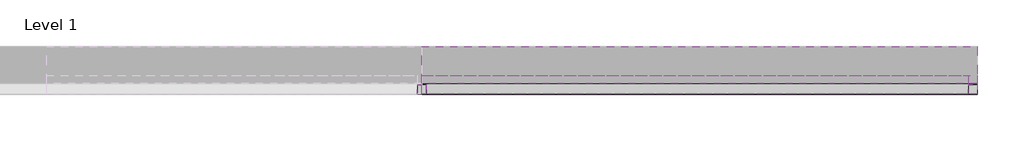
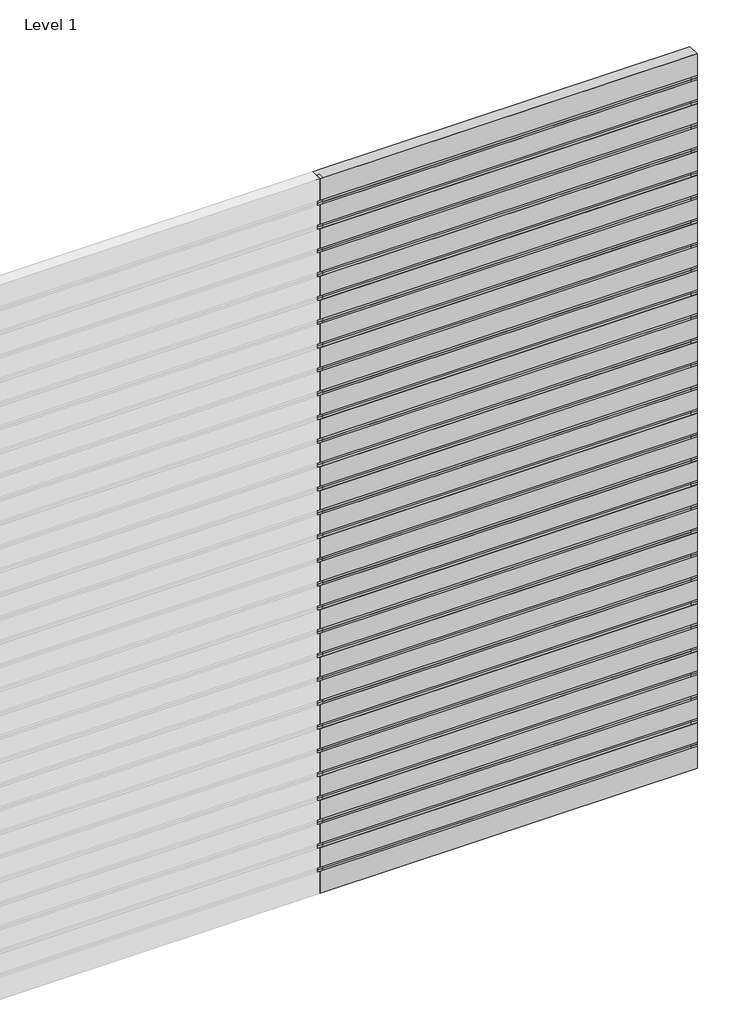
# One storey, part 2 of 2: 74 members, 60 plates.
"""IFC4 building model written with IfcOpenShell, lengths in millimetres."""

from ifc_helpers import new_model, si_unit, origin, place, context, project, spatial, transform, mapped, element, save
from components import rectangular_mullion_20bdfb12, rectangular_mullion_7d91d70c, rectangular_mullion_614df7cf, empty_system_panel_empty_0b604c90, empty_system_panel_empty_68612530, empty_system_panel_empty_34a2d59f

model = new_model("IFC4")

# Units and contexts
model_context = context("Model", 3, world=origin())
ifc_project = project(units=[si_unit("LENGTHUNIT", "METRE", prefix="MILLI")], contexts=[model_context])

# Site, building, storey
site = spatial("IfcSite", under=ifc_project)
building = spatial("IfcBuilding", under=site)
storey = spatial("IfcBuildingStorey", under=building, Name="Level 1", Elevation=0.0)

# Members
placement = place(None, origin())
rectangular_mullion_shape = rectangular_mullion_20bdfb12(model_context)
element("IfcMember", 1, ObjectType="Rectangular Mullion : RSen_21_CWM_blade - cubic 200 - 0°_gen_duco projects", at=placement, inside=storey, context=model_context, shape_type="MappedRepresentation", body=[
    mapped(rectangular_mullion_shape, transform((3000.0, 3000.0, 3200.0), x_axis=(0.0, 0.0, 1.0), y_axis=(0.0, 1.0, 0.0), z_axis=(-1.0, 0.0, 0.0))),
])
element("IfcMember", 2, ObjectType="Rectangular Mullion : RSen_21_CWM_blade - cubic 200 - 0°_gen_duco projects", at=placement, inside=storey, context=model_context, shape_type="MappedRepresentation", body=[
    mapped(rectangular_mullion_shape, transform((3000.0, 3000.0, 3400.0), x_axis=(0.0, 0.0, 1.0), y_axis=(0.0, 1.0, 0.0), z_axis=(-1.0, 0.0, 0.0))),
])
element("IfcMember", 3, ObjectType="Rectangular Mullion : RSen_21_CWM_blade - cubic 200 - 0°_gen_duco projects", at=placement, inside=storey, context=model_context, shape_type="MappedRepresentation", body=[
    mapped(rectangular_mullion_shape, transform((3000.0, 3000.0, 3600.0), x_axis=(0.0, 0.0, 1.0), y_axis=(0.0, 1.0, 0.0), z_axis=(-1.0, 0.0, 0.0))),
])
element("IfcMember", 4, ObjectType="Rectangular Mullion : RSen_21_CWM_blade - cubic 200 - 0°_gen_duco projects", at=placement, inside=storey, context=model_context, shape_type="MappedRepresentation", body=[
    mapped(rectangular_mullion_shape, transform((3000.0, 3000.0, 3800.0), x_axis=(0.0, 0.0, 1.0), y_axis=(0.0, 1.0, 0.0), z_axis=(-1.0, 0.0, 0.0))),
])
element("IfcMember", 5, ObjectType="Rectangular Mullion : RSen_21_CWM_blade - cubic 200 - 0°_gen_duco projects", at=placement, inside=storey, context=model_context, shape_type="MappedRepresentation", body=[
    mapped(rectangular_mullion_shape, transform((3000.0, 3000.0, 4000.0), x_axis=(0.0, 0.0, 1.0), y_axis=(0.0, 1.0, 0.0), z_axis=(-1.0, 0.0, 0.0))),
])
element("IfcMember", 6, ObjectType="Rectangular Mullion : RSen_21_CWM_blade - cubic 200 - 0°_gen_duco projects", at=placement, inside=storey, context=model_context, shape_type="MappedRepresentation", body=[
    mapped(rectangular_mullion_shape, transform((3000.0, 3000.0, 4200.0), x_axis=(0.0, 0.0, 1.0), y_axis=(0.0, 1.0, 0.0), z_axis=(-1.0, 0.0, 0.0))),
])
element("IfcMember", 7, ObjectType="Rectangular Mullion : RSen_21_CWM_blade - cubic 200 - 0°_gen_duco projects", at=placement, inside=storey, context=model_context, shape_type="MappedRepresentation", body=[
    mapped(rectangular_mullion_shape, transform((3000.0, 3000.0, 4400.0), x_axis=(0.0, 0.0, 1.0), y_axis=(0.0, 1.0, 0.0), z_axis=(-1.0, 0.0, 0.0))),
])
element("IfcMember", 8, ObjectType="Rectangular Mullion : RSen_21_CWM_blade - cubic 200 - 0°_gen_duco projects", at=placement, inside=storey, context=model_context, shape_type="MappedRepresentation", body=[
    mapped(rectangular_mullion_shape, transform((3000.0, 3000.0, 4600.0), x_axis=(0.0, 0.0, 1.0), y_axis=(0.0, 1.0, 0.0), z_axis=(-1.0, 0.0, 0.0))),
])
element("IfcMember", 9, ObjectType="Rectangular Mullion : RSen_21_CWM_blade - cubic 200 - 0°_gen_duco projects", at=placement, inside=storey, context=model_context, shape_type="MappedRepresentation", body=[
    mapped(rectangular_mullion_shape, transform((3000.0, 3000.0, 4800.0), x_axis=(0.0, 0.0, 1.0), y_axis=(0.0, 1.0, 0.0), z_axis=(-1.0, 0.0, 0.0))),
])
element("IfcMember", 10, ObjectType="Rectangular Mullion : RSen_21_CWM_blade - cubic 200 - 0°_gen_duco projects", at=placement, inside=storey, context=model_context, shape_type="MappedRepresentation", body=[
    mapped(rectangular_mullion_shape, transform((3000.0, 3000.0, 5000.0), x_axis=(0.0, 0.0, 1.0), y_axis=(0.0, 1.0, 0.0), z_axis=(-1.0, 0.0, 0.0))),
])
element("IfcMember", 11, ObjectType="Rectangular Mullion : RSen_21_CWM_blade - cubic 200 - 0°_gen_duco projects", at=placement, inside=storey, context=model_context, shape_type="MappedRepresentation", body=[
    mapped(rectangular_mullion_shape, transform((3000.0, 3000.0, 5200.0), x_axis=(0.0, 0.0, 1.0), y_axis=(0.0, 1.0, 0.0), z_axis=(-1.0, 0.0, 0.0))),
])
element("IfcMember", 12, ObjectType="Rectangular Mullion : RSen_21_CWM_blade - cubic 200 - 0°_gen_duco projects", at=placement, inside=storey, context=model_context, shape_type="MappedRepresentation", body=[
    mapped(rectangular_mullion_shape, transform((3000.0, 3000.0, 5400.0), x_axis=(0.0, 0.0, 1.0), y_axis=(0.0, 1.0, 0.0), z_axis=(-1.0, 0.0, 0.0))),
])
element("IfcMember", 13, ObjectType="Rectangular Mullion : RSen_21_CWM_blade - cubic 200 - 0°_gen_duco projects", at=placement, inside=storey, context=model_context, shape_type="MappedRepresentation", body=[
    mapped(rectangular_mullion_shape, transform((3000.0, 3000.0, 5600.0), x_axis=(0.0, 0.0, 1.0), y_axis=(0.0, 1.0, 0.0), z_axis=(-1.0, 0.0, 0.0))),
])
element("IfcMember", 14, ObjectType="Rectangular Mullion : RSen_21_CWM_blade - cubic 200 - 0°_gen_duco projects", at=placement, inside=storey, context=model_context, shape_type="MappedRepresentation", body=[
    mapped(rectangular_mullion_shape, transform((3000.0, 3000.0, 5800.0), x_axis=(0.0, 0.0, 1.0), y_axis=(0.0, 1.0, 0.0), z_axis=(-1.0, 0.0, 0.0))),
])
rectangular_mullion_2_shape = rectangular_mullion_7d91d70c(model_context)
element("IfcMember", 15, ObjectType="Rectangular Mullion : RSen_21_CWM_support profile 50x50_gen_duco projects", at=placement, inside=storey, context=model_context, shape_type="MappedRepresentation", body=[
    mapped(rectangular_mullion_2_shape, transform((3000.0, 3000.0, 0.0), x_axis=(-1.0, 0.0, 0.0), y_axis=(0.0, 1.0, 0.0), z_axis=(0.0, 0.0, -1.0))),
])
element("IfcMember", 16, ObjectType="Rectangular Mullion : RSen_21_CWM_support profile 50x50_gen_duco projects", at=placement, inside=storey, context=model_context, shape_type="MappedRepresentation", body=[
    mapped(rectangular_mullion_2_shape, transform((3000.0, 3000.0, 200.0), x_axis=(-1.0, 0.0, 0.0), y_axis=(0.0, 1.0, 0.0), z_axis=(0.0, 0.0, -1.0))),
])
element("IfcMember", 17, ObjectType="Rectangular Mullion : RSen_21_CWM_support profile 50x50_gen_duco projects", at=placement, inside=storey, context=model_context, shape_type="MappedRepresentation", body=[
    mapped(rectangular_mullion_2_shape, transform((3000.0, 3000.0, 400.0), x_axis=(-1.0, 0.0, 0.0), y_axis=(0.0, 1.0, 0.0), z_axis=(0.0, 0.0, -1.0))),
])
element("IfcMember", 18, ObjectType="Rectangular Mullion : RSen_21_CWM_support profile 50x50_gen_duco projects", at=placement, inside=storey, context=model_context, shape_type="MappedRepresentation", body=[
    mapped(rectangular_mullion_2_shape, transform((3000.0, 3000.0, 600.0), x_axis=(-1.0, 0.0, 0.0), y_axis=(0.0, 1.0, 0.0), z_axis=(0.0, 0.0, -1.0))),
])
element("IfcMember", 19, ObjectType="Rectangular Mullion : RSen_21_CWM_support profile 50x50_gen_duco projects", at=placement, inside=storey, context=model_context, shape_type="MappedRepresentation", body=[
    mapped(rectangular_mullion_2_shape, transform((3000.0, 3000.0, 800.0), x_axis=(-1.0, 0.0, 0.0), y_axis=(0.0, 1.0, 0.0), z_axis=(0.0, 0.0, -1.0))),
])
element("IfcMember", 20, ObjectType="Rectangular Mullion : RSen_21_CWM_support profile 50x50_gen_duco projects", at=placement, inside=storey, context=model_context, shape_type="MappedRepresentation", body=[
    mapped(rectangular_mullion_2_shape, transform((3000.0, 3000.0, 1000.0), x_axis=(-1.0, 0.0, 0.0), y_axis=(0.0, 1.0, 0.0), z_axis=(0.0, 0.0, -1.0))),
])
element("IfcMember", 21, ObjectType="Rectangular Mullion : RSen_21_CWM_support profile 50x50_gen_duco projects", at=placement, inside=storey, context=model_context, shape_type="MappedRepresentation", body=[
    mapped(rectangular_mullion_2_shape, transform((3000.0, 3000.0, 1200.0), x_axis=(-1.0, 0.0, 0.0), y_axis=(0.0, 1.0, 0.0), z_axis=(0.0, 0.0, -1.0))),
])
element("IfcMember", 22, ObjectType="Rectangular Mullion : RSen_21_CWM_support profile 50x50_gen_duco projects", at=placement, inside=storey, context=model_context, shape_type="MappedRepresentation", body=[
    mapped(rectangular_mullion_2_shape, transform((3000.0, 3000.0, 1400.0), x_axis=(-1.0, 0.0, 0.0), y_axis=(0.0, 1.0, 0.0), z_axis=(0.0, 0.0, -1.0))),
])
element("IfcMember", 23, ObjectType="Rectangular Mullion : RSen_21_CWM_support profile 50x50_gen_duco projects", at=placement, inside=storey, context=model_context, shape_type="MappedRepresentation", body=[
    mapped(rectangular_mullion_2_shape, transform((3000.0, 3000.0, 1600.0), x_axis=(-1.0, 0.0, 0.0), y_axis=(0.0, 1.0, 0.0), z_axis=(0.0, 0.0, -1.0))),
])
element("IfcMember", 24, ObjectType="Rectangular Mullion : RSen_21_CWM_support profile 50x50_gen_duco projects", at=placement, inside=storey, context=model_context, shape_type="MappedRepresentation", body=[
    mapped(rectangular_mullion_2_shape, transform((3000.0, 3000.0, 1800.0), x_axis=(-1.0, 0.0, 0.0), y_axis=(0.0, 1.0, 0.0), z_axis=(0.0, 0.0, -1.0))),
])
element("IfcMember", 25, ObjectType="Rectangular Mullion : RSen_21_CWM_support profile 50x50_gen_duco projects", at=placement, inside=storey, context=model_context, shape_type="MappedRepresentation", body=[
    mapped(rectangular_mullion_2_shape, transform((3000.0, 3000.0, 2000.0), x_axis=(-1.0, 0.0, 0.0), y_axis=(0.0, 1.0, 0.0), z_axis=(0.0, 0.0, -1.0))),
])
element("IfcMember", 26, ObjectType="Rectangular Mullion : RSen_21_CWM_support profile 50x50_gen_duco projects", at=placement, inside=storey, context=model_context, shape_type="MappedRepresentation", body=[
    mapped(rectangular_mullion_2_shape, transform((3000.0, 3000.0, 2200.0), x_axis=(-1.0, 0.0, 0.0), y_axis=(0.0, 1.0, 0.0), z_axis=(0.0, 0.0, -1.0))),
])
element("IfcMember", 27, ObjectType="Rectangular Mullion : RSen_21_CWM_support profile 50x50_gen_duco projects", at=placement, inside=storey, context=model_context, shape_type="MappedRepresentation", body=[
    mapped(rectangular_mullion_2_shape, transform((3000.0, 3000.0, 2400.0), x_axis=(-1.0, 0.0, 0.0), y_axis=(0.0, 1.0, 0.0), z_axis=(0.0, 0.0, -1.0))),
])
element("IfcMember", 28, ObjectType="Rectangular Mullion : RSen_21_CWM_support profile 50x50_gen_duco projects", at=placement, inside=storey, context=model_context, shape_type="MappedRepresentation", body=[
    mapped(rectangular_mullion_2_shape, transform((3000.0, 3000.0, 2600.0), x_axis=(-1.0, 0.0, 0.0), y_axis=(0.0, 1.0, 0.0), z_axis=(0.0, 0.0, -1.0))),
])
element("IfcMember", 29, ObjectType="Rectangular Mullion : RSen_21_CWM_support profile 50x50_gen_duco projects", at=placement, inside=storey, context=model_context, shape_type="MappedRepresentation", body=[
    mapped(rectangular_mullion_2_shape, transform((3000.0, 3000.0, 2800.0), x_axis=(-1.0, 0.0, 0.0), y_axis=(0.0, 1.0, 0.0), z_axis=(0.0, 0.0, -1.0))),
])
element("IfcMember", 30, ObjectType="Rectangular Mullion : RSen_21_CWM_support profile 50x50_gen_duco projects", at=placement, inside=storey, context=model_context, shape_type="MappedRepresentation", body=[
    mapped(rectangular_mullion_2_shape, transform((3000.0, 3000.0, 3000.0), x_axis=(-1.0, 0.0, 0.0), y_axis=(0.0, 1.0, 0.0), z_axis=(0.0, 0.0, -1.0))),
])
element("IfcMember", 31, ObjectType="Rectangular Mullion : RSen_21_CWM_support profile 50x50_gen_duco projects", at=placement, inside=storey, context=model_context, shape_type="MappedRepresentation", body=[
    mapped(rectangular_mullion_2_shape, transform((3000.0, 3000.0, 3200.0), x_axis=(-1.0, 0.0, 0.0), y_axis=(0.0, 1.0, 0.0), z_axis=(0.0, 0.0, -1.0))),
])
element("IfcMember", 32, ObjectType="Rectangular Mullion : RSen_21_CWM_support profile 50x50_gen_duco projects", at=placement, inside=storey, context=model_context, shape_type="MappedRepresentation", body=[
    mapped(rectangular_mullion_2_shape, transform((3000.0, 3000.0, 3400.0), x_axis=(-1.0, 0.0, 0.0), y_axis=(0.0, 1.0, 0.0), z_axis=(0.0, 0.0, -1.0))),
])
element("IfcMember", 33, ObjectType="Rectangular Mullion : RSen_21_CWM_support profile 50x50_gen_duco projects", at=placement, inside=storey, context=model_context, shape_type="MappedRepresentation", body=[
    mapped(rectangular_mullion_2_shape, transform((3000.0, 3000.0, 3600.0), x_axis=(-1.0, 0.0, 0.0), y_axis=(0.0, 1.0, 0.0), z_axis=(0.0, 0.0, -1.0))),
])
element("IfcMember", 34, ObjectType="Rectangular Mullion : RSen_21_CWM_support profile 50x50_gen_duco projects", at=placement, inside=storey, context=model_context, shape_type="MappedRepresentation", body=[
    mapped(rectangular_mullion_2_shape, transform((3000.0, 3000.0, 3800.0), x_axis=(-1.0, 0.0, 0.0), y_axis=(0.0, 1.0, 0.0), z_axis=(0.0, 0.0, -1.0))),
])
element("IfcMember", 35, ObjectType="Rectangular Mullion : RSen_21_CWM_support profile 50x50_gen_duco projects", at=placement, inside=storey, context=model_context, shape_type="MappedRepresentation", body=[
    mapped(rectangular_mullion_2_shape, transform((3000.0, 3000.0, 4000.0), x_axis=(-1.0, 0.0, 0.0), y_axis=(0.0, 1.0, 0.0), z_axis=(0.0, 0.0, -1.0))),
])
element("IfcMember", 36, ObjectType="Rectangular Mullion : RSen_21_CWM_support profile 50x50_gen_duco projects", at=placement, inside=storey, context=model_context, shape_type="MappedRepresentation", body=[
    mapped(rectangular_mullion_2_shape, transform((3000.0, 3000.0, 4200.0), x_axis=(-1.0, 0.0, 0.0), y_axis=(0.0, 1.0, 0.0), z_axis=(0.0, 0.0, -1.0))),
])
element("IfcMember", 37, ObjectType="Rectangular Mullion : RSen_21_CWM_support profile 50x50_gen_duco projects", at=placement, inside=storey, context=model_context, shape_type="MappedRepresentation", body=[
    mapped(rectangular_mullion_2_shape, transform((3000.0, 3000.0, 4400.0), x_axis=(-1.0, 0.0, 0.0), y_axis=(0.0, 1.0, 0.0), z_axis=(0.0, 0.0, -1.0))),
])
element("IfcMember", 38, ObjectType="Rectangular Mullion : RSen_21_CWM_support profile 50x50_gen_duco projects", at=placement, inside=storey, context=model_context, shape_type="MappedRepresentation", body=[
    mapped(rectangular_mullion_2_shape, transform((3000.0, 3000.0, 4600.0), x_axis=(-1.0, 0.0, 0.0), y_axis=(0.0, 1.0, 0.0), z_axis=(0.0, 0.0, -1.0))),
])
element("IfcMember", 39, ObjectType="Rectangular Mullion : RSen_21_CWM_support profile 50x50_gen_duco projects", at=placement, inside=storey, context=model_context, shape_type="MappedRepresentation", body=[
    mapped(rectangular_mullion_2_shape, transform((3000.0, 3000.0, 4800.0), x_axis=(-1.0, 0.0, 0.0), y_axis=(0.0, 1.0, 0.0), z_axis=(0.0, 0.0, -1.0))),
])
element("IfcMember", 40, ObjectType="Rectangular Mullion : RSen_21_CWM_support profile 50x50_gen_duco projects", at=placement, inside=storey, context=model_context, shape_type="MappedRepresentation", body=[
    mapped(rectangular_mullion_2_shape, transform((3000.0, 3000.0, 5000.0), x_axis=(-1.0, 0.0, 0.0), y_axis=(0.0, 1.0, 0.0), z_axis=(0.0, 0.0, -1.0))),
])
element("IfcMember", 41, ObjectType="Rectangular Mullion : RSen_21_CWM_support profile 50x50_gen_duco projects", at=placement, inside=storey, context=model_context, shape_type="MappedRepresentation", body=[
    mapped(rectangular_mullion_2_shape, transform((3000.0, 3000.0, 5200.0), x_axis=(-1.0, 0.0, 0.0), y_axis=(0.0, 1.0, 0.0), z_axis=(0.0, 0.0, -1.0))),
])
element("IfcMember", 42, ObjectType="Rectangular Mullion : RSen_21_CWM_support profile 50x50_gen_duco projects", at=placement, inside=storey, context=model_context, shape_type="MappedRepresentation", body=[
    mapped(rectangular_mullion_2_shape, transform((3000.0, 3000.0, 5400.0), x_axis=(-1.0, 0.0, 0.0), y_axis=(0.0, 1.0, 0.0), z_axis=(0.0, 0.0, -1.0))),
])
element("IfcMember", 43, ObjectType="Rectangular Mullion : RSen_21_CWM_support profile 50x50_gen_duco projects", at=placement, inside=storey, context=model_context, shape_type="MappedRepresentation", body=[
    mapped(rectangular_mullion_2_shape, transform((3000.0, 3000.0, 5600.0), x_axis=(-1.0, 0.0, 0.0), y_axis=(0.0, 1.0, 0.0), z_axis=(0.0, 0.0, -1.0))),
])
element("IfcMember", 44, ObjectType="Rectangular Mullion : RSen_21_CWM_support profile 50x50_gen_duco projects", at=placement, inside=storey, context=model_context, shape_type="MappedRepresentation", body=[
    mapped(rectangular_mullion_2_shape, transform((3000.0, 3000.0, 5800.0), x_axis=(-1.0, 0.0, 0.0), y_axis=(0.0, 1.0, 0.0), z_axis=(0.0, 0.0, -1.0))),
])
rectangular_mullion_3_shape = rectangular_mullion_614df7cf(model_context)
element("IfcMember", 45, ObjectType="Rectangular Mullion : RSen_21_CWM_support profile 50x50 - right_gen_duco projects", at=placement, inside=storey, context=model_context, shape_type="MappedRepresentation", body=[
    mapped(rectangular_mullion_3_shape, transform((6000.0, 3000.0, 6000.0), x_axis=(1.0, 0.0, 0.0), y_axis=(0.0, 1.0, 0.0), z_axis=(0.0, 0.0, 1.0))),
])
element("IfcMember", 46, ObjectType="Rectangular Mullion : RSen_21_CWM_support profile 50x50 - right_gen_duco projects", at=placement, inside=storey, context=model_context, shape_type="MappedRepresentation", body=[
    mapped(rectangular_mullion_3_shape, transform((6000.0, 3000.0, 200.0), x_axis=(1.0, 0.0, 0.0), y_axis=(0.0, 1.0, 0.0), z_axis=(0.0, 0.0, 1.0))),
])
element("IfcMember", 47, ObjectType="Rectangular Mullion : RSen_21_CWM_support profile 50x50 - right_gen_duco projects", at=placement, inside=storey, context=model_context, shape_type="MappedRepresentation", body=[
    mapped(rectangular_mullion_3_shape, transform((6000.0, 3000.0, 400.0), x_axis=(1.0, 0.0, 0.0), y_axis=(0.0, 1.0, 0.0), z_axis=(0.0, 0.0, 1.0))),
])
element("IfcMember", 48, ObjectType="Rectangular Mullion : RSen_21_CWM_support profile 50x50 - right_gen_duco projects", at=placement, inside=storey, context=model_context, shape_type="MappedRepresentation", body=[
    mapped(rectangular_mullion_3_shape, transform((6000.0, 3000.0, 600.0), x_axis=(1.0, 0.0, 0.0), y_axis=(0.0, 1.0, 0.0), z_axis=(0.0, 0.0, 1.0))),
])
element("IfcMember", 49, ObjectType="Rectangular Mullion : RSen_21_CWM_support profile 50x50 - right_gen_duco projects", at=placement, inside=storey, context=model_context, shape_type="MappedRepresentation", body=[
    mapped(rectangular_mullion_3_shape, transform((6000.0, 3000.0, 800.0), x_axis=(1.0, 0.0, 0.0), y_axis=(0.0, 1.0, 0.0), z_axis=(0.0, 0.0, 1.0))),
])
element("IfcMember", 50, ObjectType="Rectangular Mullion : RSen_21_CWM_support profile 50x50 - right_gen_duco projects", at=placement, inside=storey, context=model_context, shape_type="MappedRepresentation", body=[
    mapped(rectangular_mullion_3_shape, transform((6000.0, 3000.0, 1000.0), x_axis=(1.0, 0.0, 0.0), y_axis=(0.0, 1.0, 0.0), z_axis=(0.0, 0.0, 1.0))),
])
element("IfcMember", 51, ObjectType="Rectangular Mullion : RSen_21_CWM_support profile 50x50 - right_gen_duco projects", at=placement, inside=storey, context=model_context, shape_type="MappedRepresentation", body=[
    mapped(rectangular_mullion_3_shape, transform((6000.0, 3000.0, 1200.0), x_axis=(1.0, 0.0, 0.0), y_axis=(0.0, 1.0, 0.0), z_axis=(0.0, 0.0, 1.0))),
])
element("IfcMember", 52, ObjectType="Rectangular Mullion : RSen_21_CWM_support profile 50x50 - right_gen_duco projects", at=placement, inside=storey, context=model_context, shape_type="MappedRepresentation", body=[
    mapped(rectangular_mullion_3_shape, transform((6000.0, 3000.0, 1400.0), x_axis=(1.0, 0.0, 0.0), y_axis=(0.0, 1.0, 0.0), z_axis=(0.0, 0.0, 1.0))),
])
element("IfcMember", 53, ObjectType="Rectangular Mullion : RSen_21_CWM_support profile 50x50 - right_gen_duco projects", at=placement, inside=storey, context=model_context, shape_type="MappedRepresentation", body=[
    mapped(rectangular_mullion_3_shape, transform((6000.0, 3000.0, 1600.0), x_axis=(1.0, 0.0, 0.0), y_axis=(0.0, 1.0, 0.0), z_axis=(0.0, 0.0, 1.0))),
])
element("IfcMember", 54, ObjectType="Rectangular Mullion : RSen_21_CWM_support profile 50x50 - right_gen_duco projects", at=placement, inside=storey, context=model_context, shape_type="MappedRepresentation", body=[
    mapped(rectangular_mullion_3_shape, transform((6000.0, 3000.0, 1800.0), x_axis=(1.0, 0.0, 0.0), y_axis=(0.0, 1.0, 0.0), z_axis=(0.0, 0.0, 1.0))),
])
element("IfcMember", 55, ObjectType="Rectangular Mullion : RSen_21_CWM_support profile 50x50 - right_gen_duco projects", at=placement, inside=storey, context=model_context, shape_type="MappedRepresentation", body=[
    mapped(rectangular_mullion_3_shape, transform((6000.0, 3000.0, 2000.0), x_axis=(1.0, 0.0, 0.0), y_axis=(0.0, 1.0, 0.0), z_axis=(0.0, 0.0, 1.0))),
])
element("IfcMember", 56, ObjectType="Rectangular Mullion : RSen_21_CWM_support profile 50x50 - right_gen_duco projects", at=placement, inside=storey, context=model_context, shape_type="MappedRepresentation", body=[
    mapped(rectangular_mullion_3_shape, transform((6000.0, 3000.0, 2200.0), x_axis=(1.0, 0.0, 0.0), y_axis=(0.0, 1.0, 0.0), z_axis=(0.0, 0.0, 1.0))),
])
element("IfcMember", 57, ObjectType="Rectangular Mullion : RSen_21_CWM_support profile 50x50 - right_gen_duco projects", at=placement, inside=storey, context=model_context, shape_type="MappedRepresentation", body=[
    mapped(rectangular_mullion_3_shape, transform((6000.0, 3000.0, 2400.0), x_axis=(1.0, 0.0, 0.0), y_axis=(0.0, 1.0, 0.0), z_axis=(0.0, 0.0, 1.0))),
])
element("IfcMember", 58, ObjectType="Rectangular Mullion : RSen_21_CWM_support profile 50x50 - right_gen_duco projects", at=placement, inside=storey, context=model_context, shape_type="MappedRepresentation", body=[
    mapped(rectangular_mullion_3_shape, transform((6000.0, 3000.0, 2600.0), x_axis=(1.0, 0.0, 0.0), y_axis=(0.0, 1.0, 0.0), z_axis=(0.0, 0.0, 1.0))),
])
element("IfcMember", 59, ObjectType="Rectangular Mullion : RSen_21_CWM_support profile 50x50 - right_gen_duco projects", at=placement, inside=storey, context=model_context, shape_type="MappedRepresentation", body=[
    mapped(rectangular_mullion_3_shape, transform((6000.0, 3000.0, 2800.0), x_axis=(1.0, 0.0, 0.0), y_axis=(0.0, 1.0, 0.0), z_axis=(0.0, 0.0, 1.0))),
])
element("IfcMember", 60, ObjectType="Rectangular Mullion : RSen_21_CWM_support profile 50x50 - right_gen_duco projects", at=placement, inside=storey, context=model_context, shape_type="MappedRepresentation", body=[
    mapped(rectangular_mullion_3_shape, transform((6000.0, 3000.0, 3000.0), x_axis=(1.0, 0.0, 0.0), y_axis=(0.0, 1.0, 0.0), z_axis=(0.0, 0.0, 1.0))),
])
element("IfcMember", 61, ObjectType="Rectangular Mullion : RSen_21_CWM_support profile 50x50 - right_gen_duco projects", at=placement, inside=storey, context=model_context, shape_type="MappedRepresentation", body=[
    mapped(rectangular_mullion_3_shape, transform((6000.0, 3000.0, 3200.0), x_axis=(1.0, 0.0, 0.0), y_axis=(0.0, 1.0, 0.0), z_axis=(0.0, 0.0, 1.0))),
])
element("IfcMember", 62, ObjectType="Rectangular Mullion : RSen_21_CWM_support profile 50x50 - right_gen_duco projects", at=placement, inside=storey, context=model_context, shape_type="MappedRepresentation", body=[
    mapped(rectangular_mullion_3_shape, transform((6000.0, 3000.0, 3400.0), x_axis=(1.0, 0.0, 0.0), y_axis=(0.0, 1.0, 0.0), z_axis=(0.0, 0.0, 1.0))),
])
element("IfcMember", 63, ObjectType="Rectangular Mullion : RSen_21_CWM_support profile 50x50 - right_gen_duco projects", at=placement, inside=storey, context=model_context, shape_type="MappedRepresentation", body=[
    mapped(rectangular_mullion_3_shape, transform((6000.0, 3000.0, 3600.0), x_axis=(1.0, 0.0, 0.0), y_axis=(0.0, 1.0, 0.0), z_axis=(0.0, 0.0, 1.0))),
])
element("IfcMember", 64, ObjectType="Rectangular Mullion : RSen_21_CWM_support profile 50x50 - right_gen_duco projects", at=placement, inside=storey, context=model_context, shape_type="MappedRepresentation", body=[
    mapped(rectangular_mullion_3_shape, transform((6000.0, 3000.0, 3800.0), x_axis=(1.0, 0.0, 0.0), y_axis=(0.0, 1.0, 0.0), z_axis=(0.0, 0.0, 1.0))),
])
element("IfcMember", 65, ObjectType="Rectangular Mullion : RSen_21_CWM_support profile 50x50 - right_gen_duco projects", at=placement, inside=storey, context=model_context, shape_type="MappedRepresentation", body=[
    mapped(rectangular_mullion_3_shape, transform((6000.0, 3000.0, 4000.0), x_axis=(1.0, 0.0, 0.0), y_axis=(0.0, 1.0, 0.0), z_axis=(0.0, 0.0, 1.0))),
])
element("IfcMember", 66, ObjectType="Rectangular Mullion : RSen_21_CWM_support profile 50x50 - right_gen_duco projects", at=placement, inside=storey, context=model_context, shape_type="MappedRepresentation", body=[
    mapped(rectangular_mullion_3_shape, transform((6000.0, 3000.0, 4200.0), x_axis=(1.0, 0.0, 0.0), y_axis=(0.0, 1.0, 0.0), z_axis=(0.0, 0.0, 1.0))),
])
element("IfcMember", 67, ObjectType="Rectangular Mullion : RSen_21_CWM_support profile 50x50 - right_gen_duco projects", at=placement, inside=storey, context=model_context, shape_type="MappedRepresentation", body=[
    mapped(rectangular_mullion_3_shape, transform((6000.0, 3000.0, 4400.0), x_axis=(1.0, 0.0, 0.0), y_axis=(0.0, 1.0, 0.0), z_axis=(0.0, 0.0, 1.0))),
])
element("IfcMember", 68, ObjectType="Rectangular Mullion : RSen_21_CWM_support profile 50x50 - right_gen_duco projects", at=placement, inside=storey, context=model_context, shape_type="MappedRepresentation", body=[
    mapped(rectangular_mullion_3_shape, transform((6000.0, 3000.0, 4600.0), x_axis=(1.0, 0.0, 0.0), y_axis=(0.0, 1.0, 0.0), z_axis=(0.0, 0.0, 1.0))),
])
element("IfcMember", 69, ObjectType="Rectangular Mullion : RSen_21_CWM_support profile 50x50 - right_gen_duco projects", at=placement, inside=storey, context=model_context, shape_type="MappedRepresentation", body=[
    mapped(rectangular_mullion_3_shape, transform((6000.0, 3000.0, 4800.0), x_axis=(1.0, 0.0, 0.0), y_axis=(0.0, 1.0, 0.0), z_axis=(0.0, 0.0, 1.0))),
])
element("IfcMember", 70, ObjectType="Rectangular Mullion : RSen_21_CWM_support profile 50x50 - right_gen_duco projects", at=placement, inside=storey, context=model_context, shape_type="MappedRepresentation", body=[
    mapped(rectangular_mullion_3_shape, transform((6000.0, 3000.0, 5000.0), x_axis=(1.0, 0.0, 0.0), y_axis=(0.0, 1.0, 0.0), z_axis=(0.0, 0.0, 1.0))),
])
element("IfcMember", 71, ObjectType="Rectangular Mullion : RSen_21_CWM_support profile 50x50 - right_gen_duco projects", at=placement, inside=storey, context=model_context, shape_type="MappedRepresentation", body=[
    mapped(rectangular_mullion_3_shape, transform((6000.0, 3000.0, 5200.0), x_axis=(1.0, 0.0, 0.0), y_axis=(0.0, 1.0, 0.0), z_axis=(0.0, 0.0, 1.0))),
])
element("IfcMember", 72, ObjectType="Rectangular Mullion : RSen_21_CWM_support profile 50x50 - right_gen_duco projects", at=placement, inside=storey, context=model_context, shape_type="MappedRepresentation", body=[
    mapped(rectangular_mullion_3_shape, transform((6000.0, 3000.0, 5400.0), x_axis=(1.0, 0.0, 0.0), y_axis=(0.0, 1.0, 0.0), z_axis=(0.0, 0.0, 1.0))),
])
element("IfcMember", 73, ObjectType="Rectangular Mullion : RSen_21_CWM_support profile 50x50 - right_gen_duco projects", at=placement, inside=storey, context=model_context, shape_type="MappedRepresentation", body=[
    mapped(rectangular_mullion_3_shape, transform((6000.0, 3000.0, 5600.0), x_axis=(1.0, 0.0, 0.0), y_axis=(0.0, 1.0, 0.0), z_axis=(0.0, 0.0, 1.0))),
])
element("IfcMember", 74, ObjectType="Rectangular Mullion : RSen_21_CWM_support profile 50x50 - right_gen_duco projects", at=placement, inside=storey, context=model_context, shape_type="MappedRepresentation", body=[
    mapped(rectangular_mullion_3_shape, transform((6000.0, 3000.0, 5800.0), x_axis=(1.0, 0.0, 0.0), y_axis=(0.0, 1.0, 0.0), z_axis=(0.0, 0.0, 1.0))),
])

# Plates
empty_system_panel_empty_shape = empty_system_panel_empty_0b604c90(model_context)
element("IfcPlate", 75, ObjectType="Empty System Panel : Empty", at=placement, inside=storey, context=model_context, shape_type="MappedRepresentation", body=[
    mapped(empty_system_panel_empty_shape, transform((4500.0, 3000.0, 0.0), x_axis=(-1.0, 0.0, 0.0), y_axis=(0.0, -1.0, 0.0), z_axis=(0.0, 0.0, 1.0))),
])
element("IfcPlate", 76, ObjectType="Empty System Panel : Empty", at=placement, inside=storey, context=model_context, shape_type="MappedRepresentation", body=[
    mapped(empty_system_panel_empty_shape, transform((4500.0, 3000.0, 5818.5), x_axis=(-1.0, 0.0, 0.0), y_axis=(0.0, -1.0, 0.0), z_axis=(0.0, 0.0, 1.0))),
])
empty_system_panel_empty_2_shape = empty_system_panel_empty_68612530(model_context)
element("IfcPlate", 77, ObjectType="Empty System Panel : Empty", at=placement, inside=storey, context=model_context, shape_type="MappedRepresentation", body=[
    mapped(empty_system_panel_empty_2_shape, transform((4500.0, 3000.0, 218.5), x_axis=(-1.0, 0.0, 0.0), y_axis=(0.0, -1.0, 0.0), z_axis=(0.0, 0.0, 1.0))),
])
element("IfcPlate", 78, ObjectType="Empty System Panel : Empty", at=placement, inside=storey, context=model_context, shape_type="MappedRepresentation", body=[
    mapped(empty_system_panel_empty_2_shape, transform((4500.0, 3000.0, 418.5), x_axis=(-1.0, 0.0, 0.0), y_axis=(0.0, -1.0, 0.0), z_axis=(0.0, 0.0, 1.0))),
])
element("IfcPlate", 79, ObjectType="Empty System Panel : Empty", at=placement, inside=storey, context=model_context, shape_type="MappedRepresentation", body=[
    mapped(empty_system_panel_empty_2_shape, transform((4500.0, 3000.0, 618.5), x_axis=(-1.0, 0.0, 0.0), y_axis=(0.0, -1.0, 0.0), z_axis=(0.0, 0.0, 1.0))),
])
element("IfcPlate", 80, ObjectType="Empty System Panel : Empty", at=placement, inside=storey, context=model_context, shape_type="MappedRepresentation", body=[
    mapped(empty_system_panel_empty_2_shape, transform((4500.0, 3000.0, 818.5), x_axis=(-1.0, 0.0, 0.0), y_axis=(0.0, -1.0, 0.0), z_axis=(0.0, 0.0, 1.0))),
])
element("IfcPlate", 81, ObjectType="Empty System Panel : Empty", at=placement, inside=storey, context=model_context, shape_type="MappedRepresentation", body=[
    mapped(empty_system_panel_empty_2_shape, transform((4500.0, 3000.0, 1018.5), x_axis=(-1.0, 0.0, 0.0), y_axis=(0.0, -1.0, 0.0), z_axis=(0.0, 0.0, 1.0))),
])
element("IfcPlate", 82, ObjectType="Empty System Panel : Empty", at=placement, inside=storey, context=model_context, shape_type="MappedRepresentation", body=[
    mapped(empty_system_panel_empty_2_shape, transform((4500.0, 3000.0, 1218.5), x_axis=(-1.0, 0.0, 0.0), y_axis=(0.0, -1.0, 0.0), z_axis=(0.0, 0.0, 1.0))),
])
element("IfcPlate", 83, ObjectType="Empty System Panel : Empty", at=placement, inside=storey, context=model_context, shape_type="MappedRepresentation", body=[
    mapped(empty_system_panel_empty_2_shape, transform((4500.0, 3000.0, 1418.5), x_axis=(-1.0, 0.0, 0.0), y_axis=(0.0, -1.0, 0.0), z_axis=(0.0, 0.0, 1.0))),
])
element("IfcPlate", 84, ObjectType="Empty System Panel : Empty", at=placement, inside=storey, context=model_context, shape_type="MappedRepresentation", body=[
    mapped(empty_system_panel_empty_2_shape, transform((4500.0, 3000.0, 1618.5), x_axis=(-1.0, 0.0, 0.0), y_axis=(0.0, -1.0, 0.0), z_axis=(0.0, 0.0, 1.0))),
])
element("IfcPlate", 85, ObjectType="Empty System Panel : Empty", at=placement, inside=storey, context=model_context, shape_type="MappedRepresentation", body=[
    mapped(empty_system_panel_empty_2_shape, transform((4500.0, 3000.0, 1818.5), x_axis=(-1.0, 0.0, 0.0), y_axis=(0.0, -1.0, 0.0), z_axis=(0.0, 0.0, 1.0))),
])
element("IfcPlate", 86, ObjectType="Empty System Panel : Empty", at=placement, inside=storey, context=model_context, shape_type="MappedRepresentation", body=[
    mapped(empty_system_panel_empty_2_shape, transform((4500.0, 3000.0, 2018.5), x_axis=(-1.0, 0.0, 0.0), y_axis=(0.0, -1.0, 0.0), z_axis=(0.0, 0.0, 1.0))),
])
element("IfcPlate", 87, ObjectType="Empty System Panel : Empty", at=placement, inside=storey, context=model_context, shape_type="MappedRepresentation", body=[
    mapped(empty_system_panel_empty_2_shape, transform((4500.0, 3000.0, 2218.5), x_axis=(-1.0, 0.0, 0.0), y_axis=(0.0, -1.0, 0.0), z_axis=(0.0, 0.0, 1.0))),
])
element("IfcPlate", 88, ObjectType="Empty System Panel : Empty", at=placement, inside=storey, context=model_context, shape_type="MappedRepresentation", body=[
    mapped(empty_system_panel_empty_2_shape, transform((4500.0, 3000.0, 2418.5), x_axis=(-1.0, 0.0, 0.0), y_axis=(0.0, -1.0, 0.0), z_axis=(0.0, 0.0, 1.0))),
])
element("IfcPlate", 89, ObjectType="Empty System Panel : Empty", at=placement, inside=storey, context=model_context, shape_type="MappedRepresentation", body=[
    mapped(empty_system_panel_empty_2_shape, transform((4500.0, 3000.0, 2618.5), x_axis=(-1.0, 0.0, 0.0), y_axis=(0.0, -1.0, 0.0), z_axis=(0.0, 0.0, 1.0))),
])
element("IfcPlate", 90, ObjectType="Empty System Panel : Empty", at=placement, inside=storey, context=model_context, shape_type="MappedRepresentation", body=[
    mapped(empty_system_panel_empty_2_shape, transform((4500.0, 3000.0, 2818.5), x_axis=(-1.0, 0.0, 0.0), y_axis=(0.0, -1.0, 0.0), z_axis=(0.0, 0.0, 1.0))),
])
element("IfcPlate", 91, ObjectType="Empty System Panel : Empty", at=placement, inside=storey, context=model_context, shape_type="MappedRepresentation", body=[
    mapped(empty_system_panel_empty_2_shape, transform((4500.0, 3000.0, 3018.5), x_axis=(-1.0, 0.0, 0.0), y_axis=(0.0, -1.0, 0.0), z_axis=(0.0, 0.0, 1.0))),
])
element("IfcPlate", 92, ObjectType="Empty System Panel : Empty", at=placement, inside=storey, context=model_context, shape_type="MappedRepresentation", body=[
    mapped(empty_system_panel_empty_2_shape, transform((4500.0, 3000.0, 3218.5), x_axis=(-1.0, 0.0, 0.0), y_axis=(0.0, -1.0, 0.0), z_axis=(0.0, 0.0, 1.0))),
])
element("IfcPlate", 93, ObjectType="Empty System Panel : Empty", at=placement, inside=storey, context=model_context, shape_type="MappedRepresentation", body=[
    mapped(empty_system_panel_empty_2_shape, transform((4500.0, 3000.0, 3418.5), x_axis=(-1.0, 0.0, 0.0), y_axis=(0.0, -1.0, 0.0), z_axis=(0.0, 0.0, 1.0))),
])
element("IfcPlate", 94, ObjectType="Empty System Panel : Empty", at=placement, inside=storey, context=model_context, shape_type="MappedRepresentation", body=[
    mapped(empty_system_panel_empty_2_shape, transform((4500.0, 3000.0, 3618.5), x_axis=(-1.0, 0.0, 0.0), y_axis=(0.0, -1.0, 0.0), z_axis=(0.0, 0.0, 1.0))),
])
element("IfcPlate", 95, ObjectType="Empty System Panel : Empty", at=placement, inside=storey, context=model_context, shape_type="MappedRepresentation", body=[
    mapped(empty_system_panel_empty_2_shape, transform((4500.0, 3000.0, 3818.5), x_axis=(-1.0, 0.0, 0.0), y_axis=(0.0, -1.0, 0.0), z_axis=(0.0, 0.0, 1.0))),
])
element("IfcPlate", 96, ObjectType="Empty System Panel : Empty", at=placement, inside=storey, context=model_context, shape_type="MappedRepresentation", body=[
    mapped(empty_system_panel_empty_2_shape, transform((4500.0, 3000.0, 4018.5), x_axis=(-1.0, 0.0, 0.0), y_axis=(0.0, -1.0, 0.0), z_axis=(0.0, 0.0, 1.0))),
])
element("IfcPlate", 97, ObjectType="Empty System Panel : Empty", at=placement, inside=storey, context=model_context, shape_type="MappedRepresentation", body=[
    mapped(empty_system_panel_empty_2_shape, transform((4500.0, 3000.0, 4218.5), x_axis=(-1.0, 0.0, 0.0), y_axis=(0.0, -1.0, 0.0), z_axis=(0.0, 0.0, 1.0))),
])
element("IfcPlate", 98, ObjectType="Empty System Panel : Empty", at=placement, inside=storey, context=model_context, shape_type="MappedRepresentation", body=[
    mapped(empty_system_panel_empty_2_shape, transform((4500.0, 3000.0, 4418.5), x_axis=(-1.0, 0.0, 0.0), y_axis=(0.0, -1.0, 0.0), z_axis=(0.0, 0.0, 1.0))),
])
element("IfcPlate", 99, ObjectType="Empty System Panel : Empty", at=placement, inside=storey, context=model_context, shape_type="MappedRepresentation", body=[
    mapped(empty_system_panel_empty_2_shape, transform((4500.0, 3000.0, 4618.5), x_axis=(-1.0, 0.0, 0.0), y_axis=(0.0, -1.0, 0.0), z_axis=(0.0, 0.0, 1.0))),
])
element("IfcPlate", 100, ObjectType="Empty System Panel : Empty", at=placement, inside=storey, context=model_context, shape_type="MappedRepresentation", body=[
    mapped(empty_system_panel_empty_2_shape, transform((4500.0, 3000.0, 4818.5), x_axis=(-1.0, 0.0, 0.0), y_axis=(0.0, -1.0, 0.0), z_axis=(0.0, 0.0, 1.0))),
])
element("IfcPlate", 101, ObjectType="Empty System Panel : Empty", at=placement, inside=storey, context=model_context, shape_type="MappedRepresentation", body=[
    mapped(empty_system_panel_empty_2_shape, transform((4500.0, 3000.0, 5018.5), x_axis=(-1.0, 0.0, 0.0), y_axis=(0.0, -1.0, 0.0), z_axis=(0.0, 0.0, 1.0))),
])
element("IfcPlate", 102, ObjectType="Empty System Panel : Empty", at=placement, inside=storey, context=model_context, shape_type="MappedRepresentation", body=[
    mapped(empty_system_panel_empty_2_shape, transform((4500.0, 3000.0, 5218.5), x_axis=(-1.0, 0.0, 0.0), y_axis=(0.0, -1.0, 0.0), z_axis=(0.0, 0.0, 1.0))),
])
element("IfcPlate", 103, ObjectType="Empty System Panel : Empty", at=placement, inside=storey, context=model_context, shape_type="MappedRepresentation", body=[
    mapped(empty_system_panel_empty_2_shape, transform((4500.0, 3000.0, 5418.5), x_axis=(-1.0, 0.0, 0.0), y_axis=(0.0, -1.0, 0.0), z_axis=(0.0, 0.0, 1.0))),
])
element("IfcPlate", 104, ObjectType="Empty System Panel : Empty", at=placement, inside=storey, context=model_context, shape_type="MappedRepresentation", body=[
    mapped(empty_system_panel_empty_2_shape, transform((4500.0, 3000.0, 5618.5), x_axis=(-1.0, 0.0, 0.0), y_axis=(0.0, -1.0, 0.0), z_axis=(0.0, 0.0, 1.0))),
])
empty_system_panel_empty_3_shape = empty_system_panel_empty_34a2d59f(model_context)
element("IfcPlate", 105, ObjectType="Empty System Panel : Empty", at=placement, inside=storey, context=model_context, shape_type="MappedRepresentation", body=[
    mapped(empty_system_panel_empty_3_shape, transform((4487.5, 3000.0, 0.0), x_axis=(-1.0, 0.0, 0.0), y_axis=(0.0, -1.0, 0.0), z_axis=(0.0, 0.0, 1.0))),
])
element("IfcPlate", 106, ObjectType="Empty System Panel : Empty", at=placement, inside=storey, context=model_context, shape_type="MappedRepresentation", body=[
    mapped(empty_system_panel_empty_3_shape, transform((4487.5, 3000.0, 200.0), x_axis=(-1.0, 0.0, 0.0), y_axis=(0.0, -1.0, 0.0), z_axis=(0.0, 0.0, 1.0))),
])
element("IfcPlate", 107, ObjectType="Empty System Panel : Empty", at=placement, inside=storey, context=model_context, shape_type="MappedRepresentation", body=[
    mapped(empty_system_panel_empty_3_shape, transform((4487.5, 3000.0, 400.0), x_axis=(-1.0, 0.0, 0.0), y_axis=(0.0, -1.0, 0.0), z_axis=(0.0, 0.0, 1.0))),
])
element("IfcPlate", 108, ObjectType="Empty System Panel : Empty", at=placement, inside=storey, context=model_context, shape_type="MappedRepresentation", body=[
    mapped(empty_system_panel_empty_3_shape, transform((4487.5, 3000.0, 600.0), x_axis=(-1.0, 0.0, 0.0), y_axis=(0.0, -1.0, 0.0), z_axis=(0.0, 0.0, 1.0))),
])
element("IfcPlate", 109, ObjectType="Empty System Panel : Empty", at=placement, inside=storey, context=model_context, shape_type="MappedRepresentation", body=[
    mapped(empty_system_panel_empty_3_shape, transform((4487.5, 3000.0, 800.0), x_axis=(-1.0, 0.0, 0.0), y_axis=(0.0, -1.0, 0.0), z_axis=(0.0, 0.0, 1.0))),
])
element("IfcPlate", 110, ObjectType="Empty System Panel : Empty", at=placement, inside=storey, context=model_context, shape_type="MappedRepresentation", body=[
    mapped(empty_system_panel_empty_3_shape, transform((4487.5, 3000.0, 1000.0), x_axis=(-1.0, 0.0, 0.0), y_axis=(0.0, -1.0, 0.0), z_axis=(0.0, 0.0, 1.0))),
])
element("IfcPlate", 111, ObjectType="Empty System Panel : Empty", at=placement, inside=storey, context=model_context, shape_type="MappedRepresentation", body=[
    mapped(empty_system_panel_empty_3_shape, transform((4487.5, 3000.0, 1200.0), x_axis=(-1.0, 0.0, 0.0), y_axis=(0.0, -1.0, 0.0), z_axis=(0.0, 0.0, 1.0))),
])
element("IfcPlate", 112, ObjectType="Empty System Panel : Empty", at=placement, inside=storey, context=model_context, shape_type="MappedRepresentation", body=[
    mapped(empty_system_panel_empty_3_shape, transform((4487.5, 3000.0, 1400.0), x_axis=(-1.0, 0.0, 0.0), y_axis=(0.0, -1.0, 0.0), z_axis=(0.0, 0.0, 1.0))),
])
element("IfcPlate", 113, ObjectType="Empty System Panel : Empty", at=placement, inside=storey, context=model_context, shape_type="MappedRepresentation", body=[
    mapped(empty_system_panel_empty_3_shape, transform((4487.5, 3000.0, 1600.0), x_axis=(-1.0, 0.0, 0.0), y_axis=(0.0, -1.0, 0.0), z_axis=(0.0, 0.0, 1.0))),
])
element("IfcPlate", 114, ObjectType="Empty System Panel : Empty", at=placement, inside=storey, context=model_context, shape_type="MappedRepresentation", body=[
    mapped(empty_system_panel_empty_3_shape, transform((4487.5, 3000.0, 1800.0), x_axis=(-1.0, 0.0, 0.0), y_axis=(0.0, -1.0, 0.0), z_axis=(0.0, 0.0, 1.0))),
])
element("IfcPlate", 115, ObjectType="Empty System Panel : Empty", at=placement, inside=storey, context=model_context, shape_type="MappedRepresentation", body=[
    mapped(empty_system_panel_empty_3_shape, transform((4487.5, 3000.0, 2000.0), x_axis=(-1.0, 0.0, 0.0), y_axis=(0.0, -1.0, 0.0), z_axis=(0.0, 0.0, 1.0))),
])
element("IfcPlate", 116, ObjectType="Empty System Panel : Empty", at=placement, inside=storey, context=model_context, shape_type="MappedRepresentation", body=[
    mapped(empty_system_panel_empty_3_shape, transform((4487.5, 3000.0, 2200.0), x_axis=(-1.0, 0.0, 0.0), y_axis=(0.0, -1.0, 0.0), z_axis=(0.0, 0.0, 1.0))),
])
element("IfcPlate", 117, ObjectType="Empty System Panel : Empty", at=placement, inside=storey, context=model_context, shape_type="MappedRepresentation", body=[
    mapped(empty_system_panel_empty_3_shape, transform((4487.5, 3000.0, 2400.0), x_axis=(-1.0, 0.0, 0.0), y_axis=(0.0, -1.0, 0.0), z_axis=(0.0, 0.0, 1.0))),
])
element("IfcPlate", 118, ObjectType="Empty System Panel : Empty", at=placement, inside=storey, context=model_context, shape_type="MappedRepresentation", body=[
    mapped(empty_system_panel_empty_3_shape, transform((4487.5, 3000.0, 2600.0), x_axis=(-1.0, 0.0, 0.0), y_axis=(0.0, -1.0, 0.0), z_axis=(0.0, 0.0, 1.0))),
])
element("IfcPlate", 119, ObjectType="Empty System Panel : Empty", at=placement, inside=storey, context=model_context, shape_type="MappedRepresentation", body=[
    mapped(empty_system_panel_empty_3_shape, transform((4487.5, 3000.0, 2800.0), x_axis=(-1.0, 0.0, 0.0), y_axis=(0.0, -1.0, 0.0), z_axis=(0.0, 0.0, 1.0))),
])
element("IfcPlate", 120, ObjectType="Empty System Panel : Empty", at=placement, inside=storey, context=model_context, shape_type="MappedRepresentation", body=[
    mapped(empty_system_panel_empty_3_shape, transform((4487.5, 3000.0, 3000.0), x_axis=(-1.0, 0.0, 0.0), y_axis=(0.0, -1.0, 0.0), z_axis=(0.0, 0.0, 1.0))),
])
element("IfcPlate", 121, ObjectType="Empty System Panel : Empty", at=placement, inside=storey, context=model_context, shape_type="MappedRepresentation", body=[
    mapped(empty_system_panel_empty_3_shape, transform((4487.5, 3000.0, 3200.0), x_axis=(-1.0, 0.0, 0.0), y_axis=(0.0, -1.0, 0.0), z_axis=(0.0, 0.0, 1.0))),
])
element("IfcPlate", 122, ObjectType="Empty System Panel : Empty", at=placement, inside=storey, context=model_context, shape_type="MappedRepresentation", body=[
    mapped(empty_system_panel_empty_3_shape, transform((4487.5, 3000.0, 3400.0), x_axis=(-1.0, 0.0, 0.0), y_axis=(0.0, -1.0, 0.0), z_axis=(0.0, 0.0, 1.0))),
])
element("IfcPlate", 123, ObjectType="Empty System Panel : Empty", at=placement, inside=storey, context=model_context, shape_type="MappedRepresentation", body=[
    mapped(empty_system_panel_empty_3_shape, transform((4487.5, 3000.0, 3600.0), x_axis=(-1.0, 0.0, 0.0), y_axis=(0.0, -1.0, 0.0), z_axis=(0.0, 0.0, 1.0))),
])
element("IfcPlate", 124, ObjectType="Empty System Panel : Empty", at=placement, inside=storey, context=model_context, shape_type="MappedRepresentation", body=[
    mapped(empty_system_panel_empty_3_shape, transform((4487.5, 3000.0, 3800.0), x_axis=(-1.0, 0.0, 0.0), y_axis=(0.0, -1.0, 0.0), z_axis=(0.0, 0.0, 1.0))),
])
element("IfcPlate", 125, ObjectType="Empty System Panel : Empty", at=placement, inside=storey, context=model_context, shape_type="MappedRepresentation", body=[
    mapped(empty_system_panel_empty_3_shape, transform((4487.5, 3000.0, 4000.0), x_axis=(-1.0, 0.0, 0.0), y_axis=(0.0, -1.0, 0.0), z_axis=(0.0, 0.0, 1.0))),
])
element("IfcPlate", 126, ObjectType="Empty System Panel : Empty", at=placement, inside=storey, context=model_context, shape_type="MappedRepresentation", body=[
    mapped(empty_system_panel_empty_3_shape, transform((4487.5, 3000.0, 4200.0), x_axis=(-1.0, 0.0, 0.0), y_axis=(0.0, -1.0, 0.0), z_axis=(0.0, 0.0, 1.0))),
])
element("IfcPlate", 127, ObjectType="Empty System Panel : Empty", at=placement, inside=storey, context=model_context, shape_type="MappedRepresentation", body=[
    mapped(empty_system_panel_empty_3_shape, transform((4487.5, 3000.0, 4400.0), x_axis=(-1.0, 0.0, 0.0), y_axis=(0.0, -1.0, 0.0), z_axis=(0.0, 0.0, 1.0))),
])
element("IfcPlate", 128, ObjectType="Empty System Panel : Empty", at=placement, inside=storey, context=model_context, shape_type="MappedRepresentation", body=[
    mapped(empty_system_panel_empty_3_shape, transform((4487.5, 3000.0, 4600.0), x_axis=(-1.0, 0.0, 0.0), y_axis=(0.0, -1.0, 0.0), z_axis=(0.0, 0.0, 1.0))),
])
element("IfcPlate", 129, ObjectType="Empty System Panel : Empty", at=placement, inside=storey, context=model_context, shape_type="MappedRepresentation", body=[
    mapped(empty_system_panel_empty_3_shape, transform((4487.5, 3000.0, 4800.0), x_axis=(-1.0, 0.0, 0.0), y_axis=(0.0, -1.0, 0.0), z_axis=(0.0, 0.0, 1.0))),
])
element("IfcPlate", 130, ObjectType="Empty System Panel : Empty", at=placement, inside=storey, context=model_context, shape_type="MappedRepresentation", body=[
    mapped(empty_system_panel_empty_3_shape, transform((4487.5, 3000.0, 5000.0), x_axis=(-1.0, 0.0, 0.0), y_axis=(0.0, -1.0, 0.0), z_axis=(0.0, 0.0, 1.0))),
])
element("IfcPlate", 131, ObjectType="Empty System Panel : Empty", at=placement, inside=storey, context=model_context, shape_type="MappedRepresentation", body=[
    mapped(empty_system_panel_empty_3_shape, transform((4487.5, 3000.0, 5200.0), x_axis=(-1.0, 0.0, 0.0), y_axis=(0.0, -1.0, 0.0), z_axis=(0.0, 0.0, 1.0))),
])
element("IfcPlate", 132, ObjectType="Empty System Panel : Empty", at=placement, inside=storey, context=model_context, shape_type="MappedRepresentation", body=[
    mapped(empty_system_panel_empty_3_shape, transform((4487.5, 3000.0, 5400.0), x_axis=(-1.0, 0.0, 0.0), y_axis=(0.0, -1.0, 0.0), z_axis=(0.0, 0.0, 1.0))),
])
element("IfcPlate", 133, ObjectType="Empty System Panel : Empty", at=placement, inside=storey, context=model_context, shape_type="MappedRepresentation", body=[
    mapped(empty_system_panel_empty_3_shape, transform((4487.5, 3000.0, 5600.0), x_axis=(-1.0, 0.0, 0.0), y_axis=(0.0, -1.0, 0.0), z_axis=(0.0, 0.0, 1.0))),
])
element("IfcPlate", 134, ObjectType="Empty System Panel : Empty", at=placement, inside=storey, context=model_context, shape_type="MappedRepresentation", body=[
    mapped(empty_system_panel_empty_3_shape, transform((4487.5, 3000.0, 5800.0), x_axis=(-1.0, 0.0, 0.0), y_axis=(0.0, -1.0, 0.0), z_axis=(0.0, 0.0, 1.0))),
])

save(model, "model.ifc")
